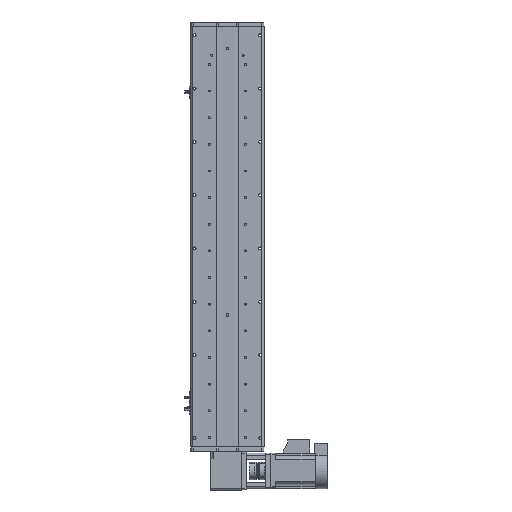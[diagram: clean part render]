
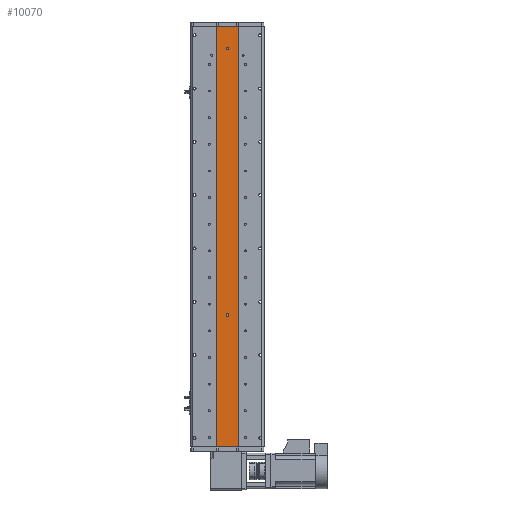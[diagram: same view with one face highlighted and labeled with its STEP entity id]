
A CAD part, front view. The second image highlights one B-rep face of the part: STEP entity #10070.
In plain terms, the highlighted planar face has unit normal (0, -1, 0).
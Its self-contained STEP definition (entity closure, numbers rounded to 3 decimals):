
#1090 = ORIENTED_EDGE ( 'NONE', *, *, #32404, .F. ) ;
#1114 = DIRECTION ( 'NONE',  ( 0., -1., 0. ) ) ;
#1702 = ORIENTED_EDGE ( 'NONE', *, *, #45890, .T. ) ;
#2575 = CIRCLE ( 'NONE', #20776, 3. ) ;
#2799 = VERTEX_POINT ( 'NONE', #43916 ) ;
#3036 = VECTOR ( 'NONE', #40200, 1000. ) ;
#3130 = ORIENTED_EDGE ( 'NONE', *, *, #31191, .F. ) ;
#3238 = PLANE ( 'NONE',  #46761 ) ;
#4302 = ORIENTED_EDGE ( 'NONE', *, *, #35287, .F. ) ;
#5250 = ORIENTED_EDGE ( 'NONE', *, *, #25837, .T. ) ;
#6794 = AXIS2_PLACEMENT_3D ( 'NONE', #39866, #17919, #43509 ) ;
#6998 = VERTEX_POINT ( 'NONE', #23248 ) ;
#9391 = EDGE_CURVE ( 'NONE', #40852, #29904, #25254, .T. ) ;
#9518 = DIRECTION ( 'NONE',  ( 1., 0., 0. ) ) ;
#9998 = VERTEX_POINT ( 'NONE', #28416 ) ;
#10070 = ADVANCED_FACE ( 'NONE', ( #25761, #17214, #16039 ), #3238, .F. ) ;
#10243 = VERTEX_POINT ( 'NONE', #44903 ) ;
#10602 = CARTESIAN_POINT ( 'NONE',  ( 25., 1., 473.5 ) ) ;
#11209 = DIRECTION ( 'NONE',  ( 0., -1., 0. ) ) ;
#13507 = DIRECTION ( 'NONE',  ( 1., 0., 0. ) ) ;
#14334 = DIRECTION ( 'NONE',  ( 0., 0., 1. ) ) ;
#14389 = CIRCLE ( 'NONE', #35487, 3. ) ;
#14716 = EDGE_LOOP ( 'NONE', ( #1702, #3130, #4302, #5250 ) ) ;
#16039 = FACE_OUTER_BOUND ( 'NONE', #14716, .T. ) ;
#16815 = CARTESIAN_POINT ( 'NONE',  ( 25., 1., 473.5 ) ) ;
#17070 = CARTESIAN_POINT ( 'NONE',  ( 0., 1., 420.5 ) ) ;
#17214 = FACE_BOUND ( 'NONE', #19846, .T. ) ;
#17333 = VERTEX_POINT ( 'NONE', #31420 ) ;
#17337 = CARTESIAN_POINT ( 'NONE',  ( 0., 1., -176.5 ) ) ;
#17919 = DIRECTION ( 'NONE',  ( 0., -1., 0. ) ) ;
#17985 = EDGE_CURVE ( 'NONE', #29904, #40852, #43991, .T. ) ;
#18249 = CARTESIAN_POINT ( 'NONE',  ( -25., 1., 473.5 ) ) ;
#19031 = VECTOR ( 'NONE', #13507, 1000. ) ;
#19121 = LINE ( 'NONE', #16815, #28822 ) ;
#19341 = VECTOR ( 'NONE', #9518, 1000. ) ;
#19846 = EDGE_LOOP ( 'NONE', ( #43050, #1090 ) ) ;
#20776 = AXIS2_PLACEMENT_3D ( 'NONE', #33154, #11209, #36873 ) ;
#21022 = DIRECTION ( 'NONE',  ( 0., 0., -1. ) ) ;
#23101 = CARTESIAN_POINT ( 'NONE',  ( 0., 1., 423.5 ) ) ;
#23248 = CARTESIAN_POINT ( 'NONE',  ( 0., 1., -173.5 ) ) ;
#24482 = CARTESIAN_POINT ( 'NONE',  ( 25., 1., 473.5 ) ) ;
#25244 = ORIENTED_EDGE ( 'NONE', *, *, #9391, .F. ) ;
#25254 = CIRCLE ( 'NONE', #6794, 3. ) ;
#25761 = FACE_BOUND ( 'NONE', #43039, .T. ) ;
#25837 = EDGE_CURVE ( 'NONE', #2799, #10243, #40906, .T. ) ;
#26761 = DIRECTION ( 'NONE',  ( 0., 0., -1. ) ) ;
#27113 = AXIS2_PLACEMENT_3D ( 'NONE', #23101, #1114, #26761 ) ;
#27612 = LINE ( 'NONE', #31756, #19031 ) ;
#28416 = CARTESIAN_POINT ( 'NONE',  ( 25., 1., -473.5 ) ) ;
#28822 = VECTOR ( 'NONE', #38764, 1000. ) ;
#29904 = VERTEX_POINT ( 'NONE', #36615 ) ;
#31191 = EDGE_CURVE ( 'NONE', #31233, #9998, #19121, .T. ) ;
#31233 = VERTEX_POINT ( 'NONE', #24482 ) ;
#31420 = CARTESIAN_POINT ( 'NONE',  ( 0., 1., -179.5 ) ) ;
#31756 = CARTESIAN_POINT ( 'NONE',  ( 25., 1., 473.5 ) ) ;
#32404 = EDGE_CURVE ( 'NONE', #6998, #17333, #14389, .T. ) ;
#33154 = CARTESIAN_POINT ( 'NONE',  ( 0., 1., -176.5 ) ) ;
#35189 = CARTESIAN_POINT ( 'NONE',  ( 25., 1., -473.5 ) ) ;
#35287 = EDGE_CURVE ( 'NONE', #2799, #31233, #27612, .T. ) ;
#35487 = AXIS2_PLACEMENT_3D ( 'NONE', #17337, #42940, #21022 ) ;
#36273 = DIRECTION ( 'NONE',  ( 0., 1., 0. ) ) ;
#36615 = CARTESIAN_POINT ( 'NONE',  ( 0., 1., 426.5 ) ) ;
#36873 = DIRECTION ( 'NONE',  ( 0., 0., -1. ) ) ;
#37682 = LINE ( 'NONE', #35189, #19341 ) ;
#38764 = DIRECTION ( 'NONE',  ( 0., 0., -1. ) ) ;
#39583 = ORIENTED_EDGE ( 'NONE', *, *, #17985, .F. ) ;
#39866 = CARTESIAN_POINT ( 'NONE',  ( 0., 1., 423.5 ) ) ;
#40200 = DIRECTION ( 'NONE',  ( 0., 0., -1. ) ) ;
#40852 = VERTEX_POINT ( 'NONE', #17070 ) ;
#40906 = LINE ( 'NONE', #18249, #3036 ) ;
#42940 = DIRECTION ( 'NONE',  ( 0., -1., 0. ) ) ;
#43039 = EDGE_LOOP ( 'NONE', ( #25244, #39583 ) ) ;
#43050 = ORIENTED_EDGE ( 'NONE', *, *, #46770, .F. ) ;
#43509 = DIRECTION ( 'NONE',  ( 0., 0., -1. ) ) ;
#43916 = CARTESIAN_POINT ( 'NONE',  ( -25., 1., 473.5 ) ) ;
#43991 = CIRCLE ( 'NONE', #27113, 3. ) ;
#44903 = CARTESIAN_POINT ( 'NONE',  ( -25., 1., -473.5 ) ) ;
#45890 = EDGE_CURVE ( 'NONE', #10243, #9998, #37682, .T. ) ;
#46761 = AXIS2_PLACEMENT_3D ( 'NONE', #10602, #36273, #14334 ) ;
#46770 = EDGE_CURVE ( 'NONE', #17333, #6998, #2575, .T. ) ;
